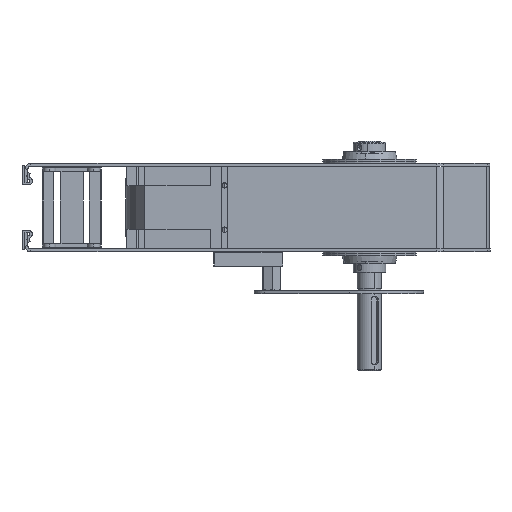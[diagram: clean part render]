
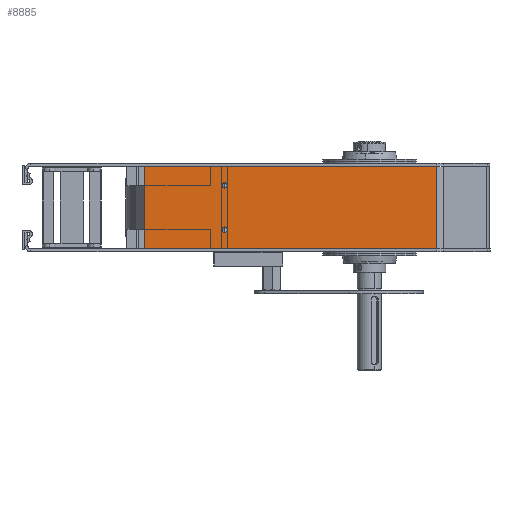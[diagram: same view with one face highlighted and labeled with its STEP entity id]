
A CAD part, left-side view. The second image highlights one B-rep face of the part: STEP entity #8885.
In plain terms, the highlighted planar face has unit normal (-1, 0, 0).
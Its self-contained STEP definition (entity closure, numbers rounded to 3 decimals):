
#22 = CARTESIAN_POINT ( 'NONE',  ( -287.877, 12.466, -69. ) ) ;
#728 = CARTESIAN_POINT ( 'NONE',  ( -287.877, 12.466, -63.5 ) ) ;
#933 = CARTESIAN_POINT ( 'NONE',  ( -287.877, 93.966, -2. ) ) ;
#2899 = CARTESIAN_POINT ( 'NONE',  ( -287.877, -207.034, -85.5 ) ) ;
#2964 = DIRECTION ( 'NONE',  ( 0., 0., -1. ) ) ;
#2967 = PLANE ( 'NONE',  #4354 ) ;
#3002 = DIRECTION ( 'NONE',  ( 1., 0., 0. ) ) ;
#4354 = AXIS2_PLACEMENT_3D ( 'NONE', #2899, #3002, #2964 ) ;
#6233 = EDGE_CURVE ( 'NONE', #11456, #24808, #23899, .T. ) ;
#6270 = EDGE_CURVE ( 'NONE', #11670, #12234, #23972, .T. ) ;
#6271 = EDGE_CURVE ( 'NONE', #11456, #24564, #23893, .T. ) ;
#6272 = EDGE_CURVE ( 'NONE', #24808, #11966, #23891, .T. ) ;
#6274 = EDGE_CURVE ( 'NONE', #24507, #24755, #23882, .T. ) ;
#7145 = DIRECTION ( 'NONE',  ( 0., 0., 1. ) ) ;
#7147 = DIRECTION ( 'NONE',  ( -1., 0., 0. ) ) ;
#7149 = CARTESIAN_POINT ( 'NONE',  ( -287.877, 12.466, -21.25 ) ) ;
#7369 = EDGE_CURVE ( 'NONE', #24564, #11966, #25641, .T. ) ;
#8662 = CIRCLE ( 'NONE', #25003, 2.75 ) ;
#8885 = ADVANCED_FACE ( 'NONE', ( #21756, #20865, #21684 ), #2967, .F. ) ;
#10197 = CARTESIAN_POINT ( 'NONE',  ( -287.877, -207.034, -85.5 ) ) ;
#10203 = DIRECTION ( 'NONE',  ( 0., 0., 1. ) ) ;
#10214 = CARTESIAN_POINT ( 'NONE',  ( -287.877, -207.034, -2. ) ) ;
#10497 = CARTESIAN_POINT ( 'NONE',  ( -287.877, 93.966, -85.5 ) ) ;
#10770 = CARTESIAN_POINT ( 'NONE',  ( -287.877, 12.466, -18.5 ) ) ;
#10849 = DIRECTION ( 'NONE',  ( -1., 0., 0. ) ) ;
#10851 = DIRECTION ( 'NONE',  ( 0., 1., 0. ) ) ;
#10852 = DIRECTION ( 'NONE',  ( 0., 0., 1. ) ) ;
#10858 = DIRECTION ( 'NONE',  ( 0., 0., 1. ) ) ;
#10880 = CARTESIAN_POINT ( 'NONE',  ( -287.877, -202.892, -85.5 ) ) ;
#10883 = CARTESIAN_POINT ( 'NONE',  ( -287.877, 12.466, -66.25 ) ) ;
#10884 = DIRECTION ( 'NONE',  ( -1., 0., 0. ) ) ;
#10922 = DIRECTION ( 'NONE',  ( 0., 1., 0. ) ) ;
#10932 = CARTESIAN_POINT ( 'NONE',  ( -287.877, 12.466, -21.25 ) ) ;
#11456 = VERTEX_POINT ( 'NONE', #22280 ) ;
#11670 = VERTEX_POINT ( 'NONE', #728 ) ;
#11966 = VERTEX_POINT ( 'NONE', #933 ) ;
#12234 = VERTEX_POINT ( 'NONE', #22 ) ;
#13000 = ORIENTED_EDGE ( 'NONE', *, *, #6270, .F. ) ;
#13011 = ORIENTED_EDGE ( 'NONE', *, *, #19954, .F. ) ;
#13286 = ORIENTED_EDGE ( 'NONE', *, *, #6271, .F. ) ;
#13407 = ORIENTED_EDGE ( 'NONE', *, *, #19808, .F. ) ;
#13480 = ORIENTED_EDGE ( 'NONE', *, *, #7369, .F. ) ;
#13616 = ORIENTED_EDGE ( 'NONE', *, *, #6233, .T. ) ;
#13804 = ORIENTED_EDGE ( 'NONE', *, *, #6272, .T. ) ;
#13882 = ORIENTED_EDGE ( 'NONE', *, *, #6274, .F. ) ;
#14436 = CARTESIAN_POINT ( 'NONE',  ( -287.877, 12.466, -24. ) ) ;
#14784 = CARTESIAN_POINT ( 'NONE',  ( -287.877, -202.892, -2. ) ) ;
#14904 = EDGE_LOOP ( 'NONE', ( #13882, #13011 ) ) ;
#15156 = EDGE_LOOP ( 'NONE', ( #13000, #13407 ) ) ;
#15840 = EDGE_LOOP ( 'NONE', ( #13804, #13480, #13286, #13616 ) ) ;
#16012 = AXIS2_PLACEMENT_3D ( 'NONE', #10932, #10849, #10852 ) ;
#16014 = AXIS2_PLACEMENT_3D ( 'NONE', #10883, #10884, #10203 ) ;
#19405 = DIRECTION ( 'NONE',  ( 0., 0., 1. ) ) ;
#19418 = CARTESIAN_POINT ( 'NONE',  ( -287.877, 93.966, -85.5 ) ) ;
#19808 = EDGE_CURVE ( 'NONE', #12234, #11670, #8662, .T. ) ;
#19954 = EDGE_CURVE ( 'NONE', #24755, #24507, #26787, .T. ) ;
#20865 = FACE_BOUND ( 'NONE', #14904, .T. ) ;
#21684 = FACE_OUTER_BOUND ( 'NONE', #15840, .T. ) ;
#21756 = FACE_BOUND ( 'NONE', #15156, .T. ) ;
#22280 = CARTESIAN_POINT ( 'NONE',  ( -287.877, -202.892, -85.5 ) ) ;
#23265 = DIRECTION ( 'NONE',  ( -1., 0., 0. ) ) ;
#23306 = DIRECTION ( 'NONE',  ( 0., 0., 1. ) ) ;
#23451 = CARTESIAN_POINT ( 'NONE',  ( -287.877, 12.466, -66.25 ) ) ;
#23808 = VECTOR ( 'NONE', #10922, 1000. ) ;
#23881 = VECTOR ( 'NONE', #10858, 1000. ) ;
#23882 = CIRCLE ( 'NONE', #16012, 2.75 ) ;
#23891 = LINE ( 'NONE', #10214, #23977 ) ;
#23893 = LINE ( 'NONE', #10197, #23808 ) ;
#23899 = LINE ( 'NONE', #10880, #23881 ) ;
#23972 = CIRCLE ( 'NONE', #16014, 2.75 ) ;
#23977 = VECTOR ( 'NONE', #10851, 1000. ) ;
#24507 = VERTEX_POINT ( 'NONE', #10770 ) ;
#24564 = VERTEX_POINT ( 'NONE', #10497 ) ;
#24755 = VERTEX_POINT ( 'NONE', #14436 ) ;
#24808 = VERTEX_POINT ( 'NONE', #14784 ) ;
#25003 = AXIS2_PLACEMENT_3D ( 'NONE', #23451, #23265, #23306 ) ;
#25036 = AXIS2_PLACEMENT_3D ( 'NONE', #7149, #7147, #7145 ) ;
#25611 = VECTOR ( 'NONE', #19405, 1000. ) ;
#25641 = LINE ( 'NONE', #19418, #25611 ) ;
#26787 = CIRCLE ( 'NONE', #25036, 2.75 ) ;
